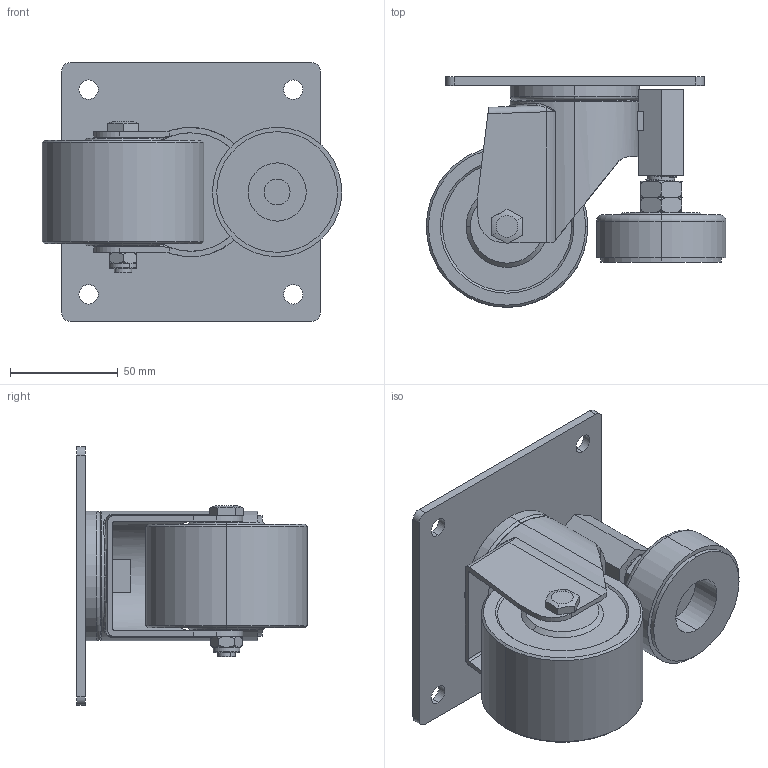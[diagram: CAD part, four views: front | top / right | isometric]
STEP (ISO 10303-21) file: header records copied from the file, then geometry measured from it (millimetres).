
FILE_DESCRIPTION (( 'STEP AP203' ), '1' );
FILE_NAME ('3AMPS.STEP', '2018-01-09T07:16:26', ( '' ), ( '' ), 'SwSTEP 2.0', 'SolidWorks 2014', '' );
FILE_SCHEMA (( 'CONFIG_CONTROL_DESIGN' ));
Length unit declared in the file: millimetre
Products named in the file (10): 螺絲M8X70; 3AMPS; 底座BS60; 輪調整-3; 底盤調整-9595T4; 螺桿12WTXL50; 活動架調整-3; 螺帽M8; BS604050; 螺帽12WT
Assembly tree (9 placements, depth 3):
  3AMPS
    活動架調整-3
    輪調整-3
    螺帽M8
    螺絲M8X70
    底盤調整-9595T4
    BS604050
      底座BS60
      螺桿12WTXL50
    螺帽12WT
Bounding box: 139 x 107 x 120 mm (x, y, z)
Volume: 389115.2 mm3; surface area: 101477.5 mm2
Topology: 8 solids, 8 shells, 256 faces, 639 edges, 413 vertices
Faces by surface type: cylinder 105, plane 94, torus 31, cone 14, bspline 12
Entity records: 12669 total; most frequent: CARTESIAN_POINT 5757, ORIENTED_EDGE 1274, DIRECTION 1193, EDGE_CURVE 637, AXIS2_PLACEMENT_3D 475, VERTEX_POINT 413, EDGE_LOOP 296, ADVANCED_FACE 256
